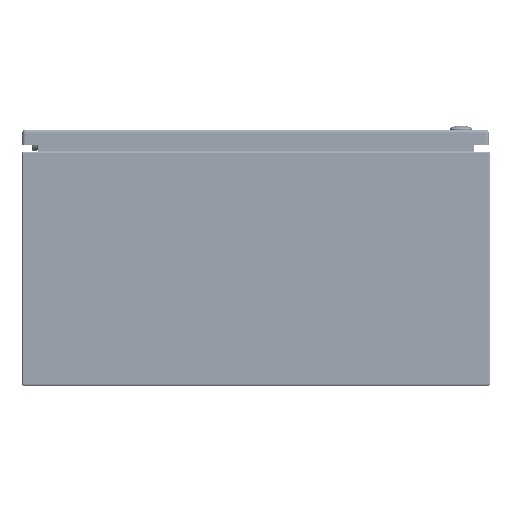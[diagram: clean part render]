
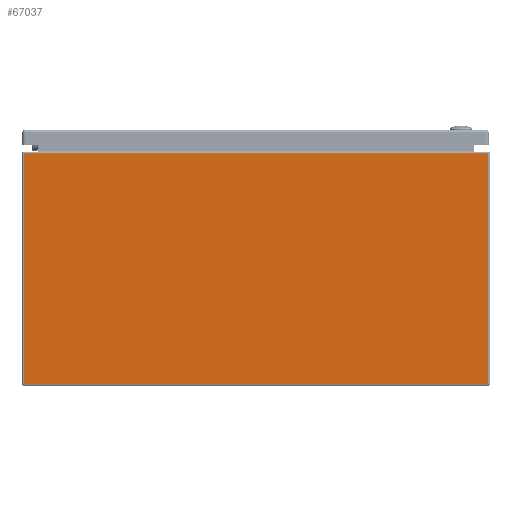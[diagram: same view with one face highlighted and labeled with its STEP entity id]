
A CAD part, front view. The second image highlights one B-rep face of the part: STEP entity #67037.
In plain terms, the highlighted planar face has unit normal (0, -1, 0).
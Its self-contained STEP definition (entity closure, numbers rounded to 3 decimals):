
#6486=LINE('',#94281,#10613);
#6493=LINE('',#94296,#10620);
#6495=LINE('',#94303,#10622);
#6497=LINE('',#94312,#10624);
#10613=VECTOR('',#78183,0.394);
#10620=VECTOR('',#78196,0.394);
#10622=VECTOR('',#78204,0.394);
#10624=VECTOR('',#78216,0.394);
#15825=FACE_OUTER_BOUND('',#19941,.T.);
#19941=EDGE_LOOP('',(#44658,#44659,#44660,#44661));
#26960=VERTEX_POINT('',#94251);
#26967=VERTEX_POINT('',#94277);
#26972=VERTEX_POINT('',#94295);
#26974=VERTEX_POINT('',#94301);
#33813=EDGE_CURVE('',#26960,#26967,#6486,.T.);
#33820=EDGE_CURVE('',#26967,#26972,#6493,.T.);
#33824=EDGE_CURVE('',#26974,#26960,#6495,.T.);
#33829=EDGE_CURVE('',#26974,#26972,#6497,.T.);
#44658=ORIENTED_EDGE('',*,*,#33813,.F.);
#44659=ORIENTED_EDGE('',*,*,#33824,.F.);
#44660=ORIENTED_EDGE('',*,*,#33829,.T.);
#44661=ORIENTED_EDGE('',*,*,#33820,.F.);
#65609=PLANE('',#72064);
#67037=ADVANCED_FACE('',(#15825),#65609,.F.);
#72064=AXIS2_PLACEMENT_3D('',#94323,#78230,#78231);
#78183=DIRECTION('',(1.,0.,0.));
#78196=DIRECTION('',(0.,0.,-1.));
#78204=DIRECTION('',(0.,0.,1.));
#78216=DIRECTION('',(1.,0.,0.));
#78230=DIRECTION('center_axis',(0.,1.,0.));
#78231=DIRECTION('ref_axis',(0.,0.,1.));
#94251=CARTESIAN_POINT('',(-11.916,-18.,11.916));
#94277=CARTESIAN_POINT('',(11.916,-18.,11.916));
#94281=CARTESIAN_POINT('',(5.979,-18.,11.916));
#94295=CARTESIAN_POINT('',(11.916,-18.,0.084));
#94296=CARTESIAN_POINT('',(11.916,-18.,6.));
#94301=CARTESIAN_POINT('',(-11.916,-18.,0.084));
#94303=CARTESIAN_POINT('',(-11.916,-18.,6.));
#94312=CARTESIAN_POINT('',(-5.958,-18.,0.084));
#94323=CARTESIAN_POINT('Origin',(0.,-18.,6.));
